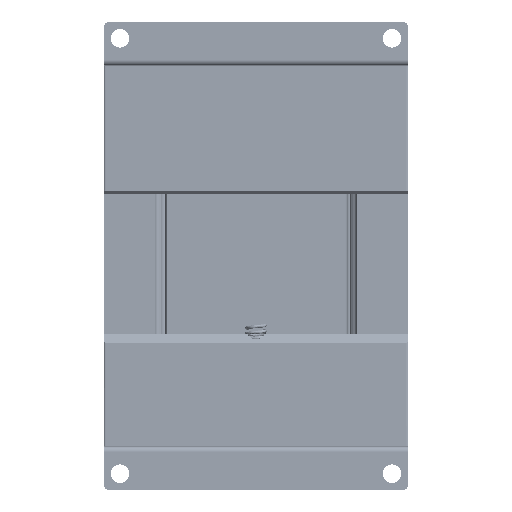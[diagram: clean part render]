
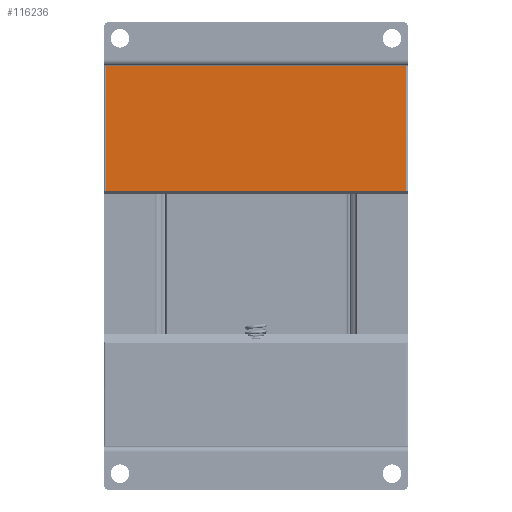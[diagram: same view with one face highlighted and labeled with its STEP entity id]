
A CAD part, front view. The second image highlights one B-rep face of the part: STEP entity #116236.
In plain terms, the highlighted planar face has unit normal (0, -1, 0).
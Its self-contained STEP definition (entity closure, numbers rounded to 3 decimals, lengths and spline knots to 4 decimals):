
#6685=PLANE('',#125718);
#12291=FACE_OUTER_BOUND('',#18877,.T.);
#18877=EDGE_LOOP('',(#106338,#106339,#106340,#106341));
#34523=LINE('',#214823,#46811);
#34640=LINE('',#215633,#46928);
#34649=LINE('',#215652,#46937);
#34650=LINE('',#215654,#46938);
#46811=VECTOR('',#154550,0.3937);
#46928=VECTOR('',#155303,0.3937);
#46937=VECTOR('',#155324,0.3937);
#46938=VECTOR('',#155327,0.3937);
#57703=VERTEX_POINT('',#214820);
#57704=VERTEX_POINT('',#214822);
#58078=VERTEX_POINT('',#215630);
#58079=VERTEX_POINT('',#215632);
#73961=EDGE_CURVE('',#57703,#57704,#34523,.T.);
#74366=EDGE_CURVE('',#58079,#58078,#34640,.T.);
#74377=EDGE_CURVE('',#58079,#57703,#34649,.T.);
#74378=EDGE_CURVE('',#57704,#58078,#34650,.T.);
#106338=ORIENTED_EDGE('',*,*,#74366,.T.);
#106339=ORIENTED_EDGE('',*,*,#74378,.F.);
#106340=ORIENTED_EDGE('',*,*,#73961,.F.);
#106341=ORIENTED_EDGE('',*,*,#74377,.F.);
#116236=ADVANCED_FACE('',(#12291),#6685,.T.);
#125718=AXIS2_PLACEMENT_3D('',#215653,#155325,#155326);
#154550=DIRECTION('',(1.,0.,0.));
#155303=DIRECTION('',(1.,0.,0.));
#155324=DIRECTION('',(0.,0.,1.));
#155325=DIRECTION('center_axis',(0.,-1.,0.));
#155326=DIRECTION('ref_axis',(1.,0.,0.));
#155327=DIRECTION('',(0.,0.,-1.));
#214820=CARTESIAN_POINT('',(0.02,0.,3.5));
#214822=CARTESIAN_POINT('',(2.78,0.,3.5));
#214823=CARTESIAN_POINT('',(0.,0.,3.5));
#215630=CARTESIAN_POINT('',(2.78,0.,2.351));
#215632=CARTESIAN_POINT('',(0.02,0.,2.351));
#215633=CARTESIAN_POINT('',(1.4,0.,2.351));
#215652=CARTESIAN_POINT('',(0.02,0.,0.));
#215653=CARTESIAN_POINT('Origin',(0.,0.,0.));
#215654=CARTESIAN_POINT('',(2.78,0.,0.));
